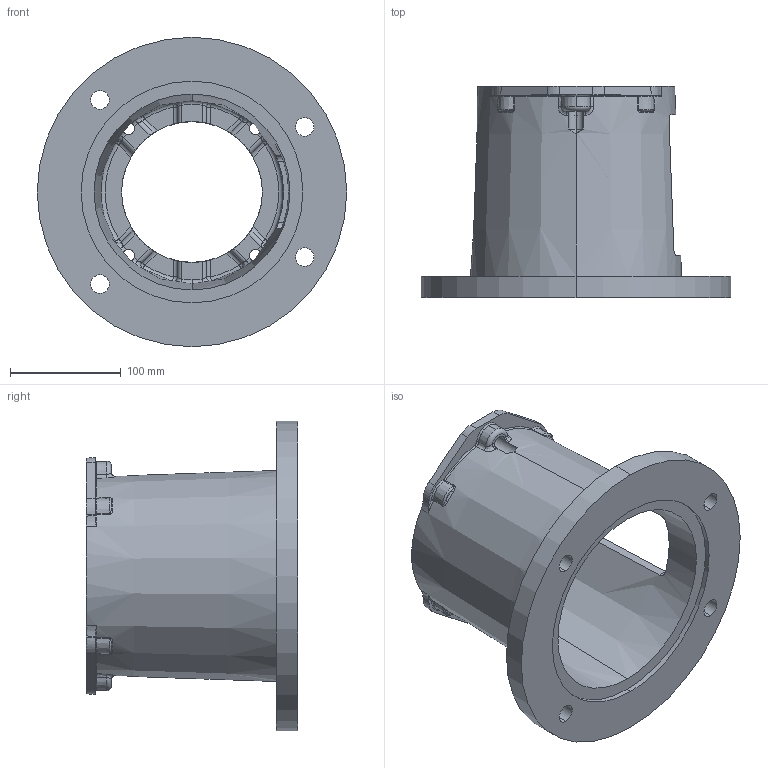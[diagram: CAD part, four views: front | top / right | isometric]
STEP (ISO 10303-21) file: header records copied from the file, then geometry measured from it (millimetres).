
FILE_DESCRIPTION (( 'STEP AP203' ), '1' );
FILE_NAME ('E787752C.STEP', '2014-11-04T15:42:18', ( '' ), ( '' ), 'SwSTEP 2.0', 'SolidWorks 2014', '' );
FILE_SCHEMA (( 'CONFIG_CONTROL_DESIGN' ));
Length unit declared in the file: inch
Products named in the file (1): E787752C
Bounding box: 279.4 x 190.5 x 279.4 mm (x, y, z)
Volume: 1431863 mm3; surface area: 310918.9 mm2
Topology: 1 solids, 1 shells, 322 faces, 862 edges, 522 vertices
Faces by surface type: cylinder 86, torus 76, bspline 64, plane 50, sphere 24, cone 22
Entity records: 13945 total; most frequent: CARTESIAN_POINT 6411, ORIENTED_EDGE 1692, DIRECTION 1488, EDGE_CURVE 846, AXIS2_PLACEMENT_3D 667, VERTEX_POINT 522, CIRCLE 408, EDGE_LOOP 342
